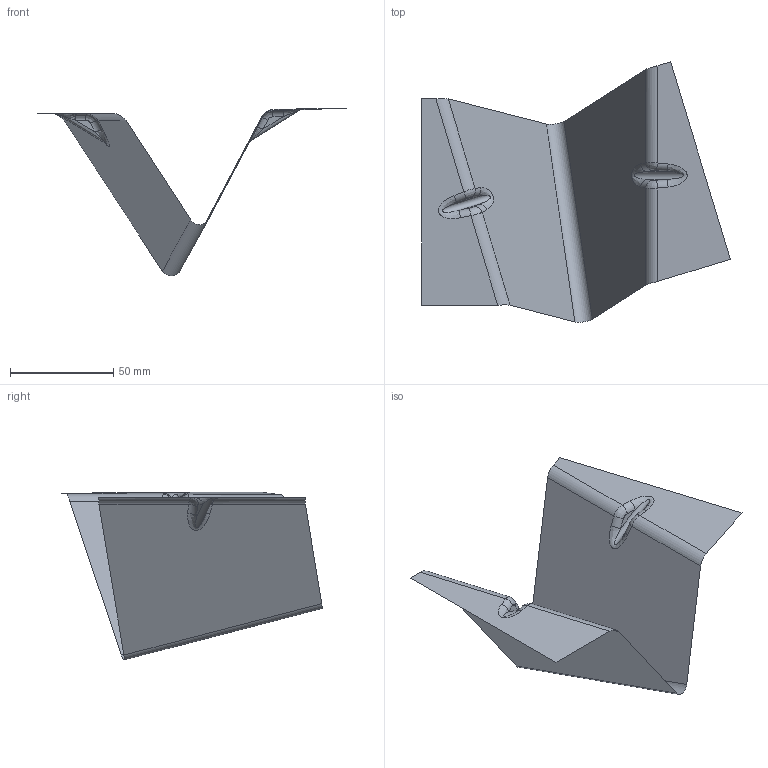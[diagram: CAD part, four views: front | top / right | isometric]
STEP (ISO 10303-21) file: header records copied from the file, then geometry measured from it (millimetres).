
FILE_DESCRIPTION(('CATIA V5 STEP Exchange'),'2;1');
FILE_NAME('C:\_Andres\UNIVERSIDAD\IQS\ASIGNATURAS\DAO\EXF\EXF-16172c\2inicio\Carreras_Buscato_Ej03_v7.stp','2017-03-05T19:32:06+00:00',('none'),('none'),'CATIA Version 5-6 Release 2014 SP1 HF18','CATIA V5 STEP AP203','none');
FILE_SCHEMA(('CONFIG_CONTROL_DESIGN'));
Length unit declared in the file: millimetre
Products named in the file (1): Carreras_Buscato_Ej03_v7
Bounding box: 149.61 x 126.09 x 81.31 mm (x, y, z)
Surface area: 21659.8 mm2 (no closed solid volume)
Topology: 0 solids, 1 shells, 31 faces, 78 edges, 48 vertices
Faces by surface type: cylinder 15, plane 8, bspline 8
Entity records: 2449 total; most frequent: CARTESIAN_POINT 1776, ORIENTED_EDGE 140, DIRECTION 90, EDGE_CURVE 78, VERTEX_POINT 48, VECTOR 40, LINE 40, ADVANCED_FACE 31
